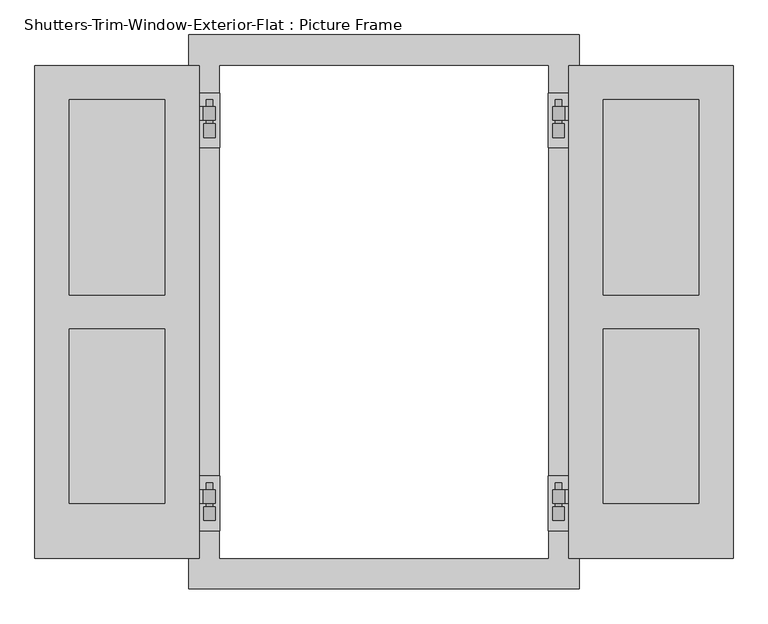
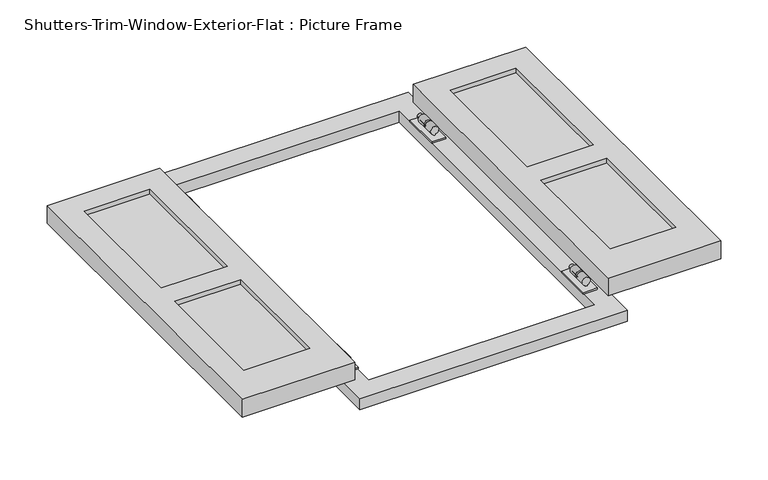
"""IFC4 building model written with IfcOpenShell, lengths in millimetres: proxy geometry, Shutters-Trim-Window-Exterior-Flat : Picture Frame."""

from ifc_helpers import new_model, si_unit, frame, origin, origin_with_axes, place, context, project, spatial, polyline, circle_curve, outline, extrude, source, transform, mapped, element, save
from ifc_brep_helpers import plane_surface, cylinder_surface, revolved_surface, advanced_brep


def shutters_trim_window_exterior_flat_picture_frame_a63c4597(model_context):
    return source(origin(), model_context, "Body", "SolidModel", [
        extrude(outline(polyline([(-647.7, 0.0), (-342.9, 0.0), (-342.9, -914.4), (-647.7, -914.4), (-647.7, 0.0)]), holes=[polyline([(-584.2, -63.5), (-584.2, -425.45), (-406.4, -425.45), (-406.4, -63.5), (-584.2, -63.5)]), polyline([(-406.4, -488.95), (-584.2, -488.95), (-584.2, -812.8), (-406.4, -812.8), (-406.4, -488.95)])]), frame((0.0, 0.0, 44.45), z_axis=(0.0, 0.0, 1.0), x_axis=(1.0, 0.0, 0.0)), (0.0, 0.0, 1.0), 50.8),
        extrude(outline(polyline([(-584.2, -63.5), (-406.4, -63.5), (-406.4, -425.45), (-584.2, -425.45), (-584.2, -63.5)])), frame((0.0, 0.0, 57.15), z_axis=(0.0, 0.0, 1.0), x_axis=(1.0, 0.0, 0.0)), (0.0, 0.0, 1.0), 25.4),
        extrude(outline(polyline([(-406.4, -488.95), (-406.4, -812.8), (-584.2, -812.8), (-584.2, -488.95), (-406.4, -488.95)])), frame((0.0, 0.0, 57.15), z_axis=(0.0, 0.0, 1.0), x_axis=(1.0, 0.0, 0.0)), (0.0, 0.0, 1.0), 25.4),
        extrude(outline(polyline([(647.7, 0.0), (647.7, -914.4), (342.9, -914.4), (342.9, 0.0), (647.7, 0.0)]), holes=[polyline([(584.2, -63.5), (406.4, -63.5), (406.4, -425.45), (584.2, -425.45), (584.2, -63.5)]), polyline([(406.4, -488.95), (406.4, -812.8), (584.2, -812.8), (584.2, -488.95), (406.4, -488.95)])]), frame((0.0, 0.0, 44.45), z_axis=(0.0, 0.0, 1.0), x_axis=(1.0, 0.0, 0.0)), (0.0, 0.0, 1.0), 50.8),
        extrude(outline(polyline([(584.2, -63.5), (584.2, -425.45), (406.4, -425.45), (406.4, -63.5), (584.2, -63.5)])), frame((0.0, 0.0, 57.15), z_axis=(0.0, 0.0, 1.0), x_axis=(1.0, 0.0, 0.0)), (0.0, 0.0, 1.0), 25.4),
        extrude(outline(polyline([(406.4, -488.95), (584.2, -488.95), (584.2, -812.8), (406.4, -812.8), (406.4, -488.95)])), frame((0.0, 0.0, 57.15), z_axis=(0.0, 0.0, 1.0), x_axis=(1.0, 0.0, 0.0)), (0.0, 0.0, 1.0), 25.4),
        extrude(outline(polyline([(-342.9, -762.0), (-304.8, -762.0), (-304.8, -863.6), (-342.9, -863.6), (-342.9, -762.0)])), frame((0.0, 0.0, 31.75), z_axis=(0.0, 0.0, 1.0), x_axis=(1.0, 0.0, 0.0)), (0.0, 0.0, 1.0), 4.7625),
        advanced_brep(
        [(-388.9375, -774.7, 44.45), (-363.474, -774.7, 44.45), (-363.474, -774.7, 39.6875), (-388.9375, -774.7, 39.6875), (-388.9375, -825.5, 39.6875), (-363.474, -825.5, 39.6875), (-363.474, -825.5, 44.45), (-388.9375, -825.5, 44.45), (-363.474, -787.4, 39.6875), (-323.85, -787.4, 39.6875), (-323.85, -812.8, 39.6875), (-363.474, -812.8, 39.6875), (-363.474, -812.8, 44.45), (-323.85, -812.8, 44.45), (-323.85, -787.4, 44.45), (-363.474, -787.4, 44.45), (-330.2, -812.8, 50.8), (-330.2, -787.4, 50.8), (-330.2, -812.8, 46.0375), (-330.2, -787.4, 46.0375), (-334.9625, -812.8, 46.0375), (-334.9625, -787.4, 46.0375), (-334.9625, -812.8, 50.8), (-334.9625, -787.4, 50.8)],
        [
            (0, 1),
            (1, 2),
            (2, 3),
            (3, 0),
            (4, 5),
            (5, 6),
            (6, 7),
            (7, 4),
            (2, 8),
            (8, 9),
            (9, 10),
            (10, 11),
            (11, 5),
            (4, 3),
            (7, 0),
            (6, 12),
            (12, 13),
            (13, 14),
            (14, 15),
            (15, 1),
            (16, 17),
            (17, 14, circle_curve(frame((-323.85, -787.4, 50.8), z_axis=(0.0, 1.0, 0.0), x_axis=(1.0, 0.0, 0.0)), 6.35)),
            (13, 16, circle_curve(frame((-323.85, -812.8, 50.8), z_axis=(0.0, -1.0, 0.0), x_axis=(1.0, 0.0, 0.0)), 6.35)),
            (18, 19),
            (19, 17),
            (16, 18),
            (20, 21),
            (21, 19),
            (18, 20),
            (22, 23),
            (23, 21),
            (20, 22),
            (9, 23, circle_curve(frame((-323.85, -787.4, 50.8), z_axis=(0.0, -1.0, 0.0), x_axis=(1.0, 0.0, 0.0)), 11.1125)),
            (22, 10, circle_curve(frame((-323.85, -812.8, 50.8), z_axis=(0.0, 1.0, 0.0), x_axis=(1.0, 0.0, 0.0)), 11.1125)),
            (12, 11),
            (8, 15),
        ],
        [
            plane_surface(frame((-323.85, -774.7, 50.8), z_axis=(0.0, 1.0, 0.0), x_axis=(0.0, 0.0, 1.0))),
            plane_surface(frame((-323.85, -825.5, 50.8), z_axis=(0.0, -1.0, 0.0), x_axis=(0.0, 0.0, 1.0))),
            plane_surface(frame((-388.9375, -774.7, 39.6875), z_axis=(0.0, 0.0, -1.0), x_axis=(0.0, -1.0, 0.0))),
            plane_surface(frame((-388.9375, -774.7, 44.45), z_axis=(-1.0, 0.0, 0.0), x_axis=(0.0, -1.0, 0.0))),
            plane_surface(frame((-323.85, -774.7, 44.45), z_axis=(0.0, 0.0, 1.0), x_axis=(0.0, -1.0, 0.0))),
            revolved_surface(polyline([(-317.5, -812.8, 50.8), (-317.5, -787.4, 50.8)]), (-323.85, -774.7, 50.8), (0.0, -1.0, 0.0)),
            plane_surface(frame((-330.2, -774.7, 46.0375), z_axis=(1.0, 0.0, 0.0), x_axis=(0.0, -1.0, 0.0))),
            plane_surface(frame((-334.9625, -774.7, 46.0375), z_axis=(0.0, 0.0, -1.0), x_axis=(0.0, -1.0, 0.0))),
            plane_surface(frame((-334.9625, -774.7, 50.8), z_axis=(-1.0, 0.0, 0.0), x_axis=(0.0, -1.0, 0.0))),
            cylinder_surface(frame((-323.85, -774.7, 50.8), z_axis=(0.0, 1.0, 0.0), x_axis=(1.0, 0.0, 0.0)), 11.1125),
            plane_surface(frame((-323.85, -812.8, 50.8), z_axis=(0.0, -1.0, 0.0), x_axis=(0.0, 0.0, 1.0))),
            plane_surface(frame((-363.474, -812.8, 44.45), z_axis=(1.0, 0.0, 0.0), x_axis=(0.0, -1.0, 0.0))),
            plane_surface(frame((-323.85, -787.4, 50.8), z_axis=(0.0, 1.0, 0.0), x_axis=(0.0, 0.0, 1.0))),
            plane_surface(frame((-363.474, -774.7, 44.45), z_axis=(1.0, 0.0, 0.0), x_axis=(0.0, -1.0, 0.0))),
        ],
        [
            (0, [[1, 2, 3, 4]]),
            (1, [[5, 6, 7, 8]]),
            (2, [[-3, 9, 10, 11, 12, 13, -5, 14]]),
            (3, [[-14, -8, 15, -4]]),
            (4, [[-7, 16, 17, 18, 19, 20, -1, -15]]),
            (5, [[21, 22, -18, 23]]),
            (6, [[24, 25, -21, 26]]),
            (7, [[27, 28, -24, 29]]),
            (8, [[30, 31, -27, 32]]),
            (9, [[-11, 33, -30, 34]]),
            (10, [[-12, -34, -32, -29, -26, -23, -17, 35]]),
            (11, [[-16, -6, -13, -35]]),
            (12, [[-19, -22, -25, -28, -31, -33, -10, 36]]),
            (13, [[-9, -2, -20, -36]]),
        ],
    ),
        advanced_brep(
        [(-326.23125, -819.15, 36.5125), (-326.23125, -819.15, 39.945632), (-321.46875, -819.15, 39.945632), (-321.46875, -819.15, 36.5125), (-317.5, -819.15, 50.8), (-330.2, -819.15, 50.8), (-326.23125, -844.55, 36.5125), (-321.46875, -844.55, 36.5125), (-321.46875, -844.55, 39.945632), (-326.23125, -844.55, 39.945632), (-330.2, -774.7, 50.8), (-317.5, -774.7, 50.8)],
        [
            (0, 1),
            (1, 2, circle_curve(frame((-323.85, -819.15, 50.8), z_axis=(0.0, 1.0, 0.0), x_axis=(1.0, 0.0, 0.0)), 11.1125)),
            (2, 3),
            (3, 0),
            (4, 5, circle_curve(frame((-323.85, -819.15, 50.8), z_axis=(0.0, -1.0, 0.0), x_axis=(1.0, 0.0, 0.0)), 6.35)),
            (5, 4, circle_curve(frame((-323.85, -819.15, 50.8), z_axis=(0.0, -1.0, 0.0), x_axis=(1.0, 0.0, 0.0)), 6.35)),
            (6, 7),
            (7, 8),
            (8, 9, circle_curve(frame((-323.85, -844.55, 50.8), z_axis=(0.0, -1.0, 0.0), x_axis=(1.0, 0.0, 0.0)), 11.1125)),
            (9, 6),
            (0, 6),
            (9, 1),
            (3, 7),
            (2, 8),
            (10, 11, circle_curve(frame((-323.85, -774.7, 50.8), z_axis=(0.0, 1.0, 0.0), x_axis=(1.0, 0.0, 0.0)), 6.35)),
            (11, 10, circle_curve(frame((-323.85, -774.7, 50.8), z_axis=(0.0, 1.0, 0.0), x_axis=(1.0, 0.0, 0.0)), 6.35)),
            (11, 4),
            (5, 10),
        ],
        [
            plane_surface(frame((-321.46875, -819.15, 36.5125), z_axis=(0.0, 1.0, 0.0), x_axis=(1.0, 0.0, 6.2395484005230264e-12))),
            plane_surface(frame((-321.46875, -844.55, 36.5125), z_axis=(0.0, -1.0, 0.0), x_axis=(-1.0, 0.0, -6.2395484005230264e-12))),
            plane_surface(frame((-326.23125, -819.15, 39.945632), z_axis=(-1.0, 0.0, 0.0), x_axis=(0.0, -1.0, 0.0))),
            plane_surface(frame((-326.23125, -819.15, 36.5125), z_axis=(6.2395484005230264e-12, 0.0, -1.0), x_axis=(0.0, -1.0, 0.0))),
            plane_surface(frame((-321.46875, -819.15, 36.5125), z_axis=(1.0, 0.0, 0.0), x_axis=(0.0, -1.0, 0.0))),
            cylinder_surface(frame((-323.85, -844.55, 50.8), z_axis=(0.0, 1.0, 0.0), x_axis=(1.0, 0.0, 0.0)), 11.1125),
            plane_surface(frame((-317.5, -774.7, 50.8), z_axis=(0.0, 1.0, 0.0), x_axis=(0.0, 0.0, 1.0))),
            cylinder_surface(frame((-323.85, -844.55, 50.8), z_axis=(0.0, 1.0, 0.0), x_axis=(1.0, 0.0, 0.0)), 6.35),
        ],
        [
            (0, [[1, 2, 3, 4], [5, 6]]),
            (1, [[7, 8, 9, 10]]),
            (2, [[11, -10, 12, -1]]),
            (3, [[13, -7, -11, -4]]),
            (4, [[14, -8, -13, -3]]),
            (5, [[-12, -9, -14, -2]]),
            (6, [[15, 16]]),
            (7, [[17, -6, 18, -16]]),
            (7, [[-18, -5, -17, -15]]),
        ],
    ),
        extrude(outline(polyline([(342.9, -762.0), (342.9, -863.6), (304.8, -863.6), (304.8, -762.0), (342.9, -762.0)])), frame((0.0, 0.0, 31.75), z_axis=(0.0, 0.0, 1.0), x_axis=(1.0, 0.0, 0.0)), (0.0, 0.0, 1.0), 4.7625),
        advanced_brep(
        [(388.9375, -774.7, 44.45), (388.9375, -774.7, 39.6875), (363.474, -774.7, 39.6875), (363.474, -774.7, 44.45), (388.9375, -825.5, 39.6875), (388.9375, -825.5, 44.45), (363.474, -825.5, 44.45), (363.474, -825.5, 39.6875), (363.474, -812.8, 39.6875), (323.85, -812.8, 39.6875), (323.85, -787.4, 39.6875), (363.474, -787.4, 39.6875), (363.474, -787.4, 44.45), (323.85, -787.4, 44.45), (323.85, -812.8, 44.45), (363.474, -812.8, 44.45), (330.2, -812.8, 50.8), (330.2, -787.4, 50.8), (330.2, -812.8, 46.0375), (330.2, -787.4, 46.0375), (334.9625, -812.8, 46.0375), (334.9625, -787.4, 46.0375), (334.9625, -812.8, 50.8), (334.9625, -787.4, 50.8)],
        [
            (0, 1),
            (1, 2),
            (2, 3),
            (3, 0),
            (4, 5),
            (5, 6),
            (6, 7),
            (7, 4),
            (1, 4),
            (7, 8),
            (8, 9),
            (9, 10),
            (10, 11),
            (11, 2),
            (0, 5),
            (3, 12),
            (12, 13),
            (13, 14),
            (14, 15),
            (15, 6),
            (16, 14, circle_curve(frame((323.85, -812.8, 50.8), z_axis=(0.0, -1.0, 0.0), x_axis=(-1.0, 0.0, 0.0)), 6.35)),
            (13, 17, circle_curve(frame((323.85, -787.4, 50.8), z_axis=(0.0, 1.0, 0.0), x_axis=(-1.0, 0.0, 0.0)), 6.35)),
            (17, 16),
            (18, 16),
            (17, 19),
            (19, 18),
            (20, 18),
            (19, 21),
            (21, 20),
            (22, 20),
            (21, 23),
            (23, 22),
            (9, 22, circle_curve(frame((323.85, -812.8, 50.8), z_axis=(0.0, 1.0, 0.0), x_axis=(-1.0, 0.0, 0.0)), 11.1125)),
            (23, 10, circle_curve(frame((323.85, -787.4, 50.8), z_axis=(0.0, -1.0, 0.0), x_axis=(-1.0, 0.0, 0.0)), 11.1125)),
            (8, 15),
            (12, 11),
        ],
        [
            plane_surface(frame((323.85, -774.7, 50.8), z_axis=(0.0, 1.0, 0.0), x_axis=(0.0, 0.0, 1.0))),
            plane_surface(frame((323.85, -825.5, 50.8), z_axis=(0.0, -1.0, 0.0), x_axis=(0.0, 0.0, 1.0))),
            plane_surface(frame((388.9375, -774.7, 39.6875), z_axis=(0.0, 0.0, -1.0), x_axis=(0.0, -1.0, 0.0))),
            plane_surface(frame((388.9375, -774.7, 44.45), z_axis=(1.0, 0.0, 0.0), x_axis=(0.0, -1.0, 0.0))),
            plane_surface(frame((323.85, -774.7, 44.45), z_axis=(0.0, 0.0, 1.0), x_axis=(0.0, -1.0, 0.0))),
            revolved_surface(polyline([(317.5, -812.8, 50.8), (317.5, -787.4, 50.8)]), (323.85, -774.7, 50.8), (0.0, -1.0, 0.0)),
            plane_surface(frame((330.2, -774.7, 46.0375), z_axis=(-1.0, 0.0, 0.0), x_axis=(0.0, -1.0, 0.0))),
            plane_surface(frame((334.9625, -774.7, 46.0375), z_axis=(0.0, 0.0, -1.0), x_axis=(0.0, -1.0, 0.0))),
            plane_surface(frame((334.9625, -774.7, 50.8), z_axis=(1.0, 0.0, 0.0), x_axis=(0.0, -1.0, 0.0))),
            cylinder_surface(frame((323.85, -774.7, 50.8), z_axis=(0.0, 1.0, 0.0), x_axis=(-1.0, 0.0, 0.0)), 11.1125),
            plane_surface(frame((323.85, -812.8, 50.8), z_axis=(0.0, -1.0, 0.0), x_axis=(0.0, 0.0, 1.0))),
            plane_surface(frame((363.474, -812.8, 44.45), z_axis=(-1.0, 0.0, 0.0), x_axis=(0.0, -1.0, 0.0))),
            plane_surface(frame((323.85, -787.4, 50.8), z_axis=(0.0, 1.0, 0.0), x_axis=(0.0, 0.0, 1.0))),
            plane_surface(frame((363.474, -774.7, 44.45), z_axis=(-1.0, 0.0, 0.0), x_axis=(0.0, -1.0, 0.0))),
        ],
        [
            (0, [[1, 2, 3, 4]]),
            (1, [[5, 6, 7, 8]]),
            (2, [[9, -8, 10, 11, 12, 13, 14, -2]]),
            (3, [[-1, 15, -5, -9]]),
            (4, [[-15, -4, 16, 17, 18, 19, 20, -6]]),
            (5, [[21, -18, 22, 23]]),
            (6, [[24, -23, 25, 26]]),
            (7, [[27, -26, 28, 29]]),
            (8, [[30, -29, 31, 32]]),
            (9, [[33, -32, 34, -12]]),
            (10, [[35, -19, -21, -24, -27, -30, -33, -11]]),
            (11, [[-35, -10, -7, -20]]),
            (12, [[36, -13, -34, -31, -28, -25, -22, -17]]),
            (13, [[-36, -16, -3, -14]]),
        ],
    ),
        advanced_brep(
        [(326.23125, -819.15, 36.5125), (321.46875, -819.15, 36.5125), (321.46875, -819.15, 39.945632), (326.23125, -819.15, 39.945632), (317.5, -819.15, 50.8), (330.2, -819.15, 50.8), (326.23125, -844.55, 36.5125), (326.23125, -844.55, 39.945632), (321.46875, -844.55, 39.945632), (321.46875, -844.55, 36.5125), (330.2, -774.7, 50.8), (317.5, -774.7, 50.8)],
        [
            (0, 1),
            (1, 2),
            (2, 3, circle_curve(frame((323.85, -819.15, 50.8), z_axis=(0.0, 1.0, 0.0), x_axis=(-1.0, 0.0, 0.0)), 11.1125)),
            (3, 0),
            (4, 5, circle_curve(frame((323.85, -819.15, 50.8), z_axis=(0.0, -1.0, 0.0), x_axis=(-1.0, 0.0, 0.0)), 6.35)),
            (5, 4, circle_curve(frame((323.85, -819.15, 50.8), z_axis=(0.0, -1.0, 0.0), x_axis=(-1.0, 0.0, 0.0)), 6.35)),
            (6, 7),
            (7, 8, circle_curve(frame((323.85, -844.55, 50.8), z_axis=(0.0, -1.0, 0.0), x_axis=(-1.0, 0.0, 0.0)), 11.1125)),
            (8, 9),
            (9, 6),
            (3, 7),
            (6, 0),
            (9, 1),
            (8, 2),
            (10, 11, circle_curve(frame((323.85, -774.7, 50.8), z_axis=(0.0, 1.0, 0.0), x_axis=(-1.0, 0.0, 0.0)), 6.35)),
            (11, 10, circle_curve(frame((323.85, -774.7, 50.8), z_axis=(0.0, 1.0, 0.0), x_axis=(-1.0, 0.0, 0.0)), 6.35)),
            (10, 5),
            (4, 11),
        ],
        [
            plane_surface(frame((321.46875, -819.15, 36.5125), z_axis=(0.0, 1.0, 0.0), x_axis=(-1.0, 0.0, 6.24601973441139e-12))),
            plane_surface(frame((321.46875, -844.55, 36.5125), z_axis=(0.0, -1.0, 0.0), x_axis=(1.0, 0.0, -6.24601973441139e-12))),
            plane_surface(frame((326.23125, -819.15, 39.945632), z_axis=(1.0, 0.0, 0.0), x_axis=(0.0, -1.0, 0.0))),
            plane_surface(frame((326.23125, -819.15, 36.5125), z_axis=(-6.24601973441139e-12, 0.0, -1.0), x_axis=(0.0, -1.0, 0.0))),
            plane_surface(frame((321.46875, -819.15, 36.5125), z_axis=(-1.0, 0.0, 0.0), x_axis=(0.0, -1.0, 0.0))),
            cylinder_surface(frame((323.85, -844.55, 50.8), z_axis=(0.0, 1.0, 0.0), x_axis=(-1.0, 0.0, 0.0)), 11.1125),
            plane_surface(frame((317.5, -774.7, 50.8), z_axis=(0.0, 1.0, 0.0), x_axis=(0.0, 0.0, 1.0))),
            cylinder_surface(frame((323.85, -844.55, 50.8), z_axis=(0.0, 1.0, 0.0), x_axis=(-1.0, 0.0, 0.0)), 6.35),
        ],
        [
            (0, [[1, 2, 3, 4], [5, 6]]),
            (1, [[7, 8, 9, 10]]),
            (2, [[-4, 11, -7, 12]]),
            (3, [[-1, -12, -10, 13]]),
            (4, [[-2, -13, -9, 14]]),
            (5, [[-3, -14, -8, -11]]),
            (6, [[15, 16]]),
            (7, [[-15, 17, -5, 18]]),
            (7, [[-16, -18, -6, -17]]),
        ],
    ),
        extrude(outline(polyline([(342.9, -50.8), (342.9, -152.4), (304.8, -152.4), (304.8, -50.8), (342.9, -50.8)])), frame((0.0, 0.0, 31.75), z_axis=(0.0, 0.0, 1.0), x_axis=(1.0, 0.0, 0.0)), (0.0, 0.0, 1.0), 4.7625),
        advanced_brep(
        [(388.9375, -63.5, 44.45), (388.9375, -63.5, 39.6875), (363.474, -63.5, 39.6875), (363.474, -63.5, 44.45), (388.9375, -114.3, 39.6875), (388.9375, -114.3, 44.45), (363.474, -114.3, 44.45), (363.474, -114.3, 39.6875), (363.474, -101.6, 39.6875), (323.85, -101.6, 39.6875), (323.85, -76.2, 39.6875), (363.474, -76.2, 39.6875), (363.474, -76.2, 44.45), (323.85, -76.2, 44.45), (323.85, -101.6, 44.45), (363.474, -101.6, 44.45), (330.2, -101.6, 50.8), (330.2, -76.2, 50.8), (330.2, -101.6, 46.0375), (330.2, -76.2, 46.0375), (334.9625, -101.6, 46.0375), (334.9625, -76.2, 46.0375), (334.9625, -101.6, 50.8), (334.9625, -76.2, 50.8)],
        [
            (0, 1),
            (1, 2),
            (2, 3),
            (3, 0),
            (4, 5),
            (5, 6),
            (6, 7),
            (7, 4),
            (1, 4),
            (7, 8),
            (8, 9),
            (9, 10),
            (10, 11),
            (11, 2),
            (0, 5),
            (3, 12),
            (12, 13),
            (13, 14),
            (14, 15),
            (15, 6),
            (16, 14, circle_curve(frame((323.85, -101.6, 50.8), z_axis=(0.0, -1.0, 0.0), x_axis=(-1.0, 0.0, 0.0)), 6.35)),
            (13, 17, circle_curve(frame((323.85, -76.2, 50.8), z_axis=(0.0, 1.0, 0.0), x_axis=(-1.0, 0.0, 0.0)), 6.35)),
            (17, 16),
            (18, 16),
            (17, 19),
            (19, 18),
            (20, 18),
            (19, 21),
            (21, 20),
            (22, 20),
            (21, 23),
            (23, 22),
            (9, 22, circle_curve(frame((323.85, -101.6, 50.8), z_axis=(0.0, 1.0, 0.0), x_axis=(-1.0, 0.0, 0.0)), 11.1125)),
            (23, 10, circle_curve(frame((323.85, -76.2, 50.8), z_axis=(0.0, -1.0, 0.0), x_axis=(-1.0, 0.0, 0.0)), 11.1125)),
            (8, 15),
            (12, 11),
        ],
        [
            plane_surface(frame((323.85, -63.5, 50.8), z_axis=(0.0, 1.0, 0.0), x_axis=(0.0, 0.0, 1.0))),
            plane_surface(frame((323.85, -114.3, 50.8), z_axis=(0.0, -1.0, 0.0), x_axis=(0.0, 0.0, 1.0))),
            plane_surface(frame((388.9375, -63.5, 39.6875), z_axis=(0.0, 0.0, -1.0), x_axis=(0.0, -1.0, 0.0))),
            plane_surface(frame((388.9375, -63.5, 44.45), z_axis=(1.0, 0.0, 0.0), x_axis=(0.0, -1.0, 0.0))),
            plane_surface(frame((323.85, -63.5, 44.45), z_axis=(0.0, 0.0, 1.0), x_axis=(0.0, -1.0, 0.0))),
            revolved_surface(polyline([(317.5, -101.6, 50.8), (317.5, -76.2, 50.8)]), (323.85, -63.5, 50.8), (0.0, -1.0, 0.0)),
            plane_surface(frame((330.2, -63.5, 46.0375), z_axis=(-1.0, 0.0, 0.0), x_axis=(0.0, -1.0, 0.0))),
            plane_surface(frame((334.9625, -63.5, 46.0375), z_axis=(0.0, 0.0, -1.0), x_axis=(0.0, -1.0, 0.0))),
            plane_surface(frame((334.9625, -63.5, 50.8), z_axis=(1.0, 0.0, 0.0), x_axis=(0.0, -1.0, 0.0))),
            cylinder_surface(frame((323.85, -63.5, 50.8), z_axis=(0.0, 1.0, 0.0), x_axis=(-1.0, 0.0, 0.0)), 11.1125),
            plane_surface(frame((323.85, -101.6, 50.8), z_axis=(0.0, -1.0, 0.0), x_axis=(0.0, 0.0, 1.0))),
            plane_surface(frame((363.474, -101.6, 44.45), z_axis=(-1.0, 0.0, 0.0), x_axis=(0.0, -1.0, 0.0))),
            plane_surface(frame((323.85, -76.2, 50.8), z_axis=(0.0, 1.0, 0.0), x_axis=(0.0, 0.0, 1.0))),
            plane_surface(frame((363.474, -63.5, 44.45), z_axis=(-1.0, 0.0, 0.0), x_axis=(0.0, -1.0, 0.0))),
        ],
        [
            (0, [[1, 2, 3, 4]]),
            (1, [[5, 6, 7, 8]]),
            (2, [[9, -8, 10, 11, 12, 13, 14, -2]]),
            (3, [[-1, 15, -5, -9]]),
            (4, [[-15, -4, 16, 17, 18, 19, 20, -6]]),
            (5, [[21, -18, 22, 23]]),
            (6, [[24, -23, 25, 26]]),
            (7, [[27, -26, 28, 29]]),
            (8, [[30, -29, 31, 32]]),
            (9, [[33, -32, 34, -12]]),
            (10, [[35, -19, -21, -24, -27, -30, -33, -11]]),
            (11, [[-35, -10, -7, -20]]),
            (12, [[36, -13, -34, -31, -28, -25, -22, -17]]),
            (13, [[-36, -16, -3, -14]]),
        ],
    ),
        advanced_brep(
        [(326.23125, -107.95, 36.5125), (321.46875, -107.95, 36.5125), (321.46875, -107.95, 39.945632), (326.23125, -107.95, 39.945632), (317.5, -107.95, 50.8), (330.2, -107.95, 50.8), (326.23125, -133.35, 36.5125), (326.23125, -133.35, 39.945632), (321.46875, -133.35, 39.945632), (321.46875, -133.35, 36.5125), (330.2, -63.5, 50.8), (317.5, -63.5, 50.8)],
        [
            (0, 1),
            (1, 2),
            (2, 3, circle_curve(frame((323.85, -107.95, 50.8), z_axis=(0.0, 1.0, 0.0), x_axis=(-1.0, 0.0, 0.0)), 11.1125)),
            (3, 0),
            (4, 5, circle_curve(frame((323.85, -107.95, 50.8), z_axis=(0.0, -1.0, 0.0), x_axis=(-1.0, 0.0, 0.0)), 6.35)),
            (5, 4, circle_curve(frame((323.85, -107.95, 50.8), z_axis=(0.0, -1.0, 0.0), x_axis=(-1.0, 0.0, 0.0)), 6.35)),
            (6, 7),
            (7, 8, circle_curve(frame((323.85, -133.35, 50.8), z_axis=(0.0, -1.0, 0.0), x_axis=(-1.0, 0.0, 0.0)), 11.1125)),
            (8, 9),
            (9, 6),
            (3, 7),
            (6, 0),
            (9, 1),
            (8, 2),
            (10, 11, circle_curve(frame((323.85, -63.5, 50.8), z_axis=(0.0, 1.0, 0.0), x_axis=(-1.0, 0.0, 0.0)), 6.35)),
            (11, 10, circle_curve(frame((323.85, -63.5, 50.8), z_axis=(0.0, 1.0, 0.0), x_axis=(-1.0, 0.0, 0.0)), 6.35)),
            (10, 5),
            (4, 11),
        ],
        [
            plane_surface(frame((321.46875, -107.95, 36.5125), z_axis=(0.0, 1.0, 0.0), x_axis=(-1.0, 0.0, 6.24601973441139e-12))),
            plane_surface(frame((321.46875, -133.35, 36.5125), z_axis=(0.0, -1.0, 0.0), x_axis=(1.0, 0.0, -6.24601973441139e-12))),
            plane_surface(frame((326.23125, -107.95, 39.945632), z_axis=(1.0, 0.0, 0.0), x_axis=(0.0, -1.0, 0.0))),
            plane_surface(frame((326.23125, -107.95, 36.5125), z_axis=(-6.24601973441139e-12, 0.0, -1.0), x_axis=(0.0, -1.0, 0.0))),
            plane_surface(frame((321.46875, -107.95, 36.5125), z_axis=(-1.0, 0.0, 0.0), x_axis=(0.0, -1.0, 0.0))),
            cylinder_surface(frame((323.85, -133.35, 50.8), z_axis=(0.0, 1.0, 0.0), x_axis=(-1.0, 0.0, 0.0)), 11.1125),
            plane_surface(frame((317.5, -63.5, 50.8), z_axis=(0.0, 1.0, 0.0), x_axis=(0.0, 0.0, 1.0))),
            cylinder_surface(frame((323.85, -133.35, 50.8), z_axis=(0.0, 1.0, 0.0), x_axis=(-1.0, 0.0, 0.0)), 6.35),
        ],
        [
            (0, [[1, 2, 3, 4], [5, 6]]),
            (1, [[7, 8, 9, 10]]),
            (2, [[-4, 11, -7, 12]]),
            (3, [[-1, -12, -10, 13]]),
            (4, [[-2, -13, -9, 14]]),
            (5, [[-3, -14, -8, -11]]),
            (6, [[15, 16]]),
            (7, [[-15, 17, -5, 18]]),
            (7, [[-16, -18, -6, -17]]),
        ],
    ),
        extrude(outline(polyline([(-342.9, -50.8), (-304.8, -50.8), (-304.8, -152.4), (-342.9, -152.4), (-342.9, -50.8)])), frame((0.0, 0.0, 31.75), z_axis=(0.0, 0.0, 1.0), x_axis=(1.0, 0.0, 0.0)), (0.0, 0.0, 1.0), 4.7625),
        advanced_brep(
        [(-388.9375, -63.5, 44.45), (-363.474, -63.5, 44.45), (-363.474, -63.5, 39.6875), (-388.9375, -63.5, 39.6875), (-388.9375, -114.3, 39.6875), (-363.474, -114.3, 39.6875), (-363.474, -114.3, 44.45), (-388.9375, -114.3, 44.45), (-363.474, -76.2, 39.6875), (-323.85, -76.2, 39.6875), (-323.85, -101.6, 39.6875), (-363.474, -101.6, 39.6875), (-363.474, -101.6, 44.45), (-323.85, -101.6, 44.45), (-323.85, -76.2, 44.45), (-363.474, -76.2, 44.45), (-330.2, -101.6, 50.8), (-330.2, -76.2, 50.8), (-330.2, -101.6, 46.0375), (-330.2, -76.2, 46.0375), (-334.9625, -101.6, 46.0375), (-334.9625, -76.2, 46.0375), (-334.9625, -101.6, 50.8), (-334.9625, -76.2, 50.8)],
        [
            (0, 1),
            (1, 2),
            (2, 3),
            (3, 0),
            (4, 5),
            (5, 6),
            (6, 7),
            (7, 4),
            (2, 8),
            (8, 9),
            (9, 10),
            (10, 11),
            (11, 5),
            (4, 3),
            (7, 0),
            (6, 12),
            (12, 13),
            (13, 14),
            (14, 15),
            (15, 1),
            (16, 17),
            (17, 14, circle_curve(frame((-323.85, -76.2, 50.8), z_axis=(0.0, 1.0, 0.0), x_axis=(1.0, 0.0, 0.0)), 6.35)),
            (13, 16, circle_curve(frame((-323.85, -101.6, 50.8), z_axis=(0.0, -1.0, 0.0), x_axis=(1.0, 0.0, 0.0)), 6.35)),
            (18, 19),
            (19, 17),
            (16, 18),
            (20, 21),
            (21, 19),
            (18, 20),
            (22, 23),
            (23, 21),
            (20, 22),
            (9, 23, circle_curve(frame((-323.85, -76.2, 50.8), z_axis=(0.0, -1.0, 0.0), x_axis=(1.0, 0.0, 0.0)), 11.1125)),
            (22, 10, circle_curve(frame((-323.85, -101.6, 50.8), z_axis=(0.0, 1.0, 0.0), x_axis=(1.0, 0.0, 0.0)), 11.1125)),
            (12, 11),
            (8, 15),
        ],
        [
            plane_surface(frame((-323.85, -63.5, 50.8), z_axis=(0.0, 1.0, 0.0), x_axis=(0.0, 0.0, 1.0))),
            plane_surface(frame((-323.85, -114.3, 50.8), z_axis=(0.0, -1.0, 0.0), x_axis=(0.0, 0.0, 1.0))),
            plane_surface(frame((-388.9375, -63.5, 39.6875), z_axis=(0.0, 0.0, -1.0), x_axis=(0.0, -1.0, 0.0))),
            plane_surface(frame((-388.9375, -63.5, 44.45), z_axis=(-1.0, 0.0, 0.0), x_axis=(0.0, -1.0, 0.0))),
            plane_surface(frame((-323.85, -63.5, 44.45), z_axis=(0.0, 0.0, 1.0), x_axis=(0.0, -1.0, 0.0))),
            revolved_surface(polyline([(-317.5, -101.6, 50.8), (-317.5, -76.2, 50.8)]), (-323.85, -63.5, 50.8), (0.0, -1.0, 0.0)),
            plane_surface(frame((-330.2, -63.5, 46.0375), z_axis=(1.0, 0.0, 0.0), x_axis=(0.0, -1.0, 0.0))),
            plane_surface(frame((-334.9625, -63.5, 46.0375), z_axis=(0.0, 0.0, -1.0), x_axis=(0.0, -1.0, 0.0))),
            plane_surface(frame((-334.9625, -63.5, 50.8), z_axis=(-1.0, 0.0, 0.0), x_axis=(0.0, -1.0, 0.0))),
            cylinder_surface(frame((-323.85, -63.5, 50.8), z_axis=(0.0, 1.0, 0.0), x_axis=(1.0, 0.0, 0.0)), 11.1125),
            plane_surface(frame((-323.85, -101.6, 50.8), z_axis=(0.0, -1.0, 0.0), x_axis=(0.0, 0.0, 1.0))),
            plane_surface(frame((-363.474, -101.6, 44.45), z_axis=(1.0, 0.0, 0.0), x_axis=(0.0, -1.0, 0.0))),
            plane_surface(frame((-323.85, -76.2, 50.8), z_axis=(0.0, 1.0, 0.0), x_axis=(0.0, 0.0, 1.0))),
            plane_surface(frame((-363.474, -63.5, 44.45), z_axis=(1.0, 0.0, 0.0), x_axis=(0.0, -1.0, 0.0))),
        ],
        [
            (0, [[1, 2, 3, 4]]),
            (1, [[5, 6, 7, 8]]),
            (2, [[-3, 9, 10, 11, 12, 13, -5, 14]]),
            (3, [[-14, -8, 15, -4]]),
            (4, [[-7, 16, 17, 18, 19, 20, -1, -15]]),
            (5, [[21, 22, -18, 23]]),
            (6, [[24, 25, -21, 26]]),
            (7, [[27, 28, -24, 29]]),
            (8, [[30, 31, -27, 32]]),
            (9, [[-11, 33, -30, 34]]),
            (10, [[-12, -34, -32, -29, -26, -23, -17, 35]]),
            (11, [[-16, -6, -13, -35]]),
            (12, [[-19, -22, -25, -28, -31, -33, -10, 36]]),
            (13, [[-9, -2, -20, -36]]),
        ],
    ),
        advanced_brep(
        [(-326.23125, -107.95, 36.5125), (-326.23125, -107.95, 39.945632), (-321.46875, -107.95, 39.945632), (-321.46875, -107.95, 36.5125), (-317.5, -107.95, 50.8), (-330.2, -107.95, 50.8), (-326.23125, -133.35, 36.5125), (-321.46875, -133.35, 36.5125), (-321.46875, -133.35, 39.945632), (-326.23125, -133.35, 39.945632), (-330.2, -63.5, 50.8), (-317.5, -63.5, 50.8)],
        [
            (0, 1),
            (1, 2, circle_curve(frame((-323.85, -107.95, 50.8), z_axis=(0.0, 1.0, 0.0), x_axis=(1.0, 0.0, 0.0)), 11.1125)),
            (2, 3),
            (3, 0),
            (4, 5, circle_curve(frame((-323.85, -107.95, 50.8), z_axis=(0.0, -1.0, 0.0), x_axis=(1.0, 0.0, 0.0)), 6.35)),
            (5, 4, circle_curve(frame((-323.85, -107.95, 50.8), z_axis=(0.0, -1.0, 0.0), x_axis=(1.0, 0.0, 0.0)), 6.35)),
            (6, 7),
            (7, 8),
            (8, 9, circle_curve(frame((-323.85, -133.35, 50.8), z_axis=(0.0, -1.0, 0.0), x_axis=(1.0, 0.0, 0.0)), 11.1125)),
            (9, 6),
            (0, 6),
            (9, 1),
            (3, 7),
            (2, 8),
            (10, 11, circle_curve(frame((-323.85, -63.5, 50.8), z_axis=(0.0, 1.0, 0.0), x_axis=(1.0, 0.0, 0.0)), 6.35)),
            (11, 10, circle_curve(frame((-323.85, -63.5, 50.8), z_axis=(0.0, 1.0, 0.0), x_axis=(1.0, 0.0, 0.0)), 6.35)),
            (11, 4),
            (5, 10),
        ],
        [
            plane_surface(frame((-321.46875, -107.95, 36.5125), z_axis=(0.0, 1.0, 0.0), x_axis=(1.0, 0.0, 6.2395484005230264e-12))),
            plane_surface(frame((-321.46875, -133.35, 36.5125), z_axis=(0.0, -1.0, 0.0), x_axis=(-1.0, 0.0, -6.2395484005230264e-12))),
            plane_surface(frame((-326.23125, -107.95, 39.945632), z_axis=(-1.0, 0.0, 0.0), x_axis=(0.0, -1.0, 0.0))),
            plane_surface(frame((-326.23125, -107.95, 36.5125), z_axis=(6.2395484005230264e-12, 0.0, -1.0), x_axis=(0.0, -1.0, 0.0))),
            plane_surface(frame((-321.46875, -107.95, 36.5125), z_axis=(1.0, 0.0, 0.0), x_axis=(0.0, -1.0, 0.0))),
            cylinder_surface(frame((-323.85, -133.35, 50.8), z_axis=(0.0, 1.0, 0.0), x_axis=(1.0, 0.0, 0.0)), 11.1125),
            plane_surface(frame((-317.5, -63.5, 50.8), z_axis=(0.0, 1.0, 0.0), x_axis=(0.0, 0.0, 1.0))),
            cylinder_surface(frame((-323.85, -133.35, 50.8), z_axis=(0.0, 1.0, 0.0), x_axis=(1.0, 0.0, 0.0)), 6.35),
        ],
        [
            (0, [[1, 2, 3, 4], [5, 6]]),
            (1, [[7, 8, 9, 10]]),
            (2, [[11, -10, 12, -1]]),
            (3, [[13, -7, -11, -4]]),
            (4, [[14, -8, -13, -3]]),
            (5, [[-12, -9, -14, -2]]),
            (6, [[15, 16]]),
            (7, [[17, -6, 18, -16]]),
            (7, [[-18, -5, -17, -15]]),
        ],
    ),
        extrude(outline(polyline([(361.95, 57.15), (361.95, -971.55), (-361.95, -971.55), (-361.95, 57.15), (361.95, 57.15)]), holes=[polyline([(304.8, 0.0), (-304.8, 0.0), (-304.8, -914.4), (304.8, -914.4), (304.8, 0.0)])]), origin_with_axes(), (0.0, 0.0, 1.0), 31.75),
    ])


if __name__ == "__main__":
    model = new_model("IFC4")
    model_context = context("Model", 3, world=origin())
    ifc_project = project(units=[si_unit("LENGTHUNIT", "METRE", prefix="MILLI")], contexts=[model_context])
    site = spatial("IfcSite", under=ifc_project)
    building = spatial("IfcBuilding", under=site)
    placement = place(None, origin())
    shutters_trim_window_exterior_flat_picture_frame_shape = shutters_trim_window_exterior_flat_picture_frame_a63c4597(model_context)
    element("IfcBuildingElementProxy", 1, Name="Shutters-Trim-Window-Exterior-Flat : Picture Frame", ObjectType="Shutters-Trim-Window-Exterior-Flat : Picture Frame", at=placement, inside=building, context=model_context, shape_type="MappedRepresentation", body=[
        mapped(shutters_trim_window_exterior_flat_picture_frame_shape, transform((0.0, 0.0, 0.0), x_axis=(1.0, 0.0, 0.0), y_axis=(0.0, 1.0, 0.0), z_axis=(0.0, 0.0, 1.0))),
    ])
    save(model, "model.ifc")
